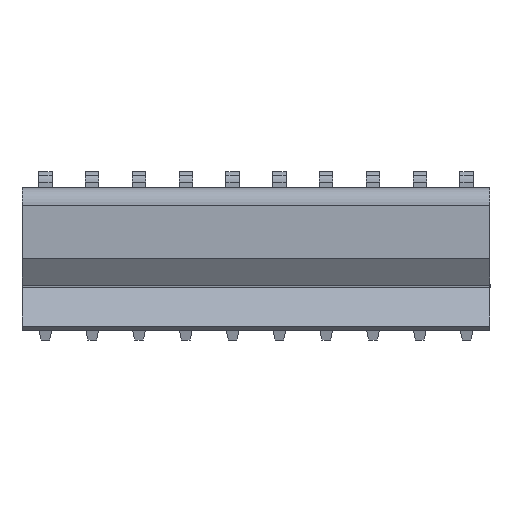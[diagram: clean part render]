
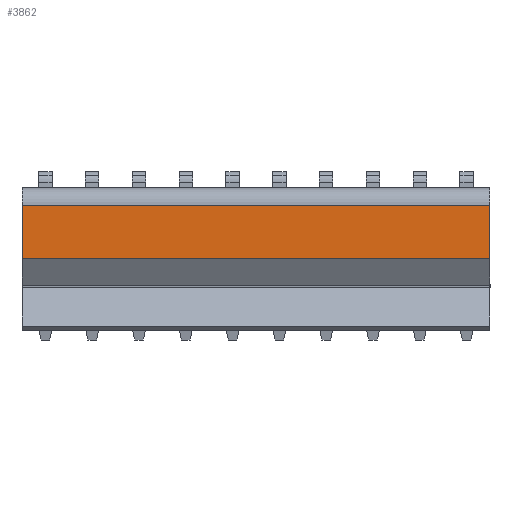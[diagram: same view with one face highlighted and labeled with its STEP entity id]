
A CAD part, left-side view. The second image highlights one B-rep face of the part: STEP entity #3862.
In plain terms, the highlighted planar face has unit normal (-1, 0, 0).
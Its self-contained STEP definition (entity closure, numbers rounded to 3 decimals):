
#102 = CARTESIAN_POINT ( 'NONE',  ( -13.312, -26.283, 28.373 ) ) ;
#183 = CARTESIAN_POINT ( 'NONE',  ( -13.312, -26.283, 23.886 ) ) ;
#235 = LINE ( 'NONE', #183, #10243 ) ;
#1003 = ORIENTED_EDGE ( 'NONE', *, *, #8566, .T. ) ;
#1804 = VERTEX_POINT ( 'NONE', #3147 ) ;
#1822 = DIRECTION ( 'NONE',  ( 1., 0., 0. ) ) ;
#2205 = CARTESIAN_POINT ( 'NONE',  ( -13.312, 13.317, 23.886 ) ) ;
#2539 = LINE ( 'NONE', #9040, #3599 ) ;
#3147 = CARTESIAN_POINT ( 'NONE',  ( -13.312, 13.317, 28.373 ) ) ;
#3428 = FACE_OUTER_BOUND ( 'NONE', #6954, .T. ) ;
#3479 = DIRECTION ( 'NONE',  ( 0., 1., 0. ) ) ;
#3599 = VECTOR ( 'NONE', #4199, 1000. ) ;
#3862 = ADVANCED_FACE ( 'NONE', ( #3428 ), #8270, .F. ) ;
#4038 = CARTESIAN_POINT ( 'NONE',  ( -13.312, 13.317, 23.886 ) ) ;
#4199 = DIRECTION ( 'NONE',  ( 0., -1., 0. ) ) ;
#4246 = VECTOR ( 'NONE', #5336, 1000. ) ;
#4783 = ORIENTED_EDGE ( 'NONE', *, *, #8502, .T. ) ;
#5336 = DIRECTION ( 'NONE',  ( 0., 0., 1. ) ) ;
#5452 = LINE ( 'NONE', #4038, #7902 ) ;
#5500 = DIRECTION ( 'NONE',  ( 0., -1., 0. ) ) ;
#5508 = VERTEX_POINT ( 'NONE', #2205 ) ;
#5922 = VERTEX_POINT ( 'NONE', #102 ) ;
#6051 = CARTESIAN_POINT ( 'NONE',  ( -13.312, 13.317, 23.886 ) ) ;
#6631 = CARTESIAN_POINT ( 'NONE',  ( -13.312, -26.283, 23.886 ) ) ;
#6788 = LINE ( 'NONE', #6051, #4246 ) ;
#6954 = EDGE_LOOP ( 'NONE', ( #4783, #1003, #8293, #7311 ) ) ;
#7311 = ORIENTED_EDGE ( 'NONE', *, *, #8774, .F. ) ;
#7902 = VECTOR ( 'NONE', #5500, 1000. ) ;
#7977 = AXIS2_PLACEMENT_3D ( 'NONE', #9833, #1822, #3479 ) ;
#8146 = DIRECTION ( 'NONE',  ( 0., 0., 1. ) ) ;
#8217 = EDGE_CURVE ( 'NONE', #1804, #5922, #2539, .T. ) ;
#8270 = PLANE ( 'NONE',  #7977 ) ;
#8293 = ORIENTED_EDGE ( 'NONE', *, *, #8217, .F. ) ;
#8502 = EDGE_CURVE ( 'NONE', #5508, #9764, #5452, .T. ) ;
#8566 = EDGE_CURVE ( 'NONE', #9764, #5922, #235, .T. ) ;
#8774 = EDGE_CURVE ( 'NONE', #5508, #1804, #6788, .T. ) ;
#9040 = CARTESIAN_POINT ( 'NONE',  ( -13.312, 13.317, 28.373 ) ) ;
#9764 = VERTEX_POINT ( 'NONE', #6631 ) ;
#9833 = CARTESIAN_POINT ( 'NONE',  ( -13.312, 1.437, 26.13 ) ) ;
#10243 = VECTOR ( 'NONE', #8146, 1000. ) ;
